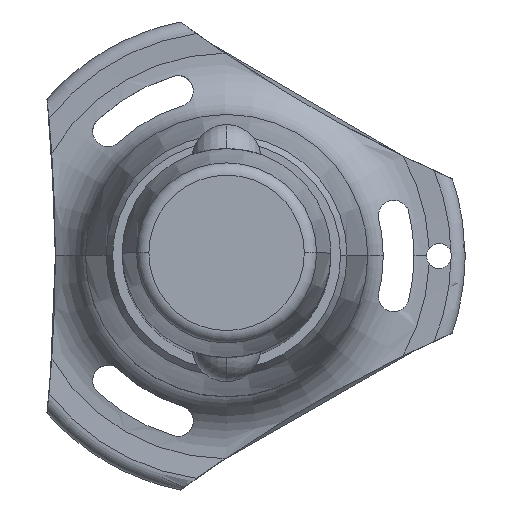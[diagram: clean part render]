
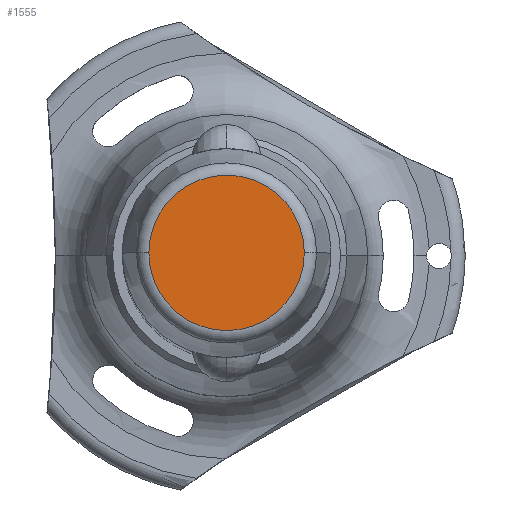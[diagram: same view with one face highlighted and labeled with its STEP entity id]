
A CAD part, top view. The second image highlights one B-rep face of the part: STEP entity #1555.
In plain terms, the highlighted planar face has unit normal (0, 0, 1).
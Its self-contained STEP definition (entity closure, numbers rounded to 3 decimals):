
#55 = EDGE_CURVE ( 'NONE', #1114, #2218, #1697, .T. ) ;
#116 = PLANE ( 'NONE',  #2482 ) ;
#242 = DIRECTION ( 'NONE',  ( 1., 0., 0. ) ) ;
#288 = ORIENTED_EDGE ( 'NONE', *, *, #1165, .T. ) ;
#335 = DIRECTION ( 'NONE',  ( 0., 0., 1. ) ) ;
#602 = AXIS2_PLACEMENT_3D ( 'NONE', #2385, #1449, #2788 ) ;
#650 = CIRCLE ( 'NONE', #602, 9.302 ) ;
#822 = AXIS2_PLACEMENT_3D ( 'NONE', #2658, #2617, #242 ) ;
#845 = EDGE_LOOP ( 'NONE', ( #288, #1652 ) ) ;
#1058 = CARTESIAN_POINT ( 'NONE',  ( -9.302, 0., 22. ) ) ;
#1114 = VERTEX_POINT ( 'NONE', #1058 ) ;
#1165 = EDGE_CURVE ( 'NONE', #2218, #1114, #650, .T. ) ;
#1185 = FACE_OUTER_BOUND ( 'NONE', #845, .T. ) ;
#1219 = CARTESIAN_POINT ( 'NONE',  ( 0., 0., 22. ) ) ;
#1428 = DIRECTION ( 'NONE',  ( 1., 0., 0. ) ) ;
#1449 = DIRECTION ( 'NONE',  ( 0., 0., 1. ) ) ;
#1555 = ADVANCED_FACE ( 'NONE', ( #1185 ), #116, .T. ) ;
#1652 = ORIENTED_EDGE ( 'NONE', *, *, #55, .T. ) ;
#1697 = CIRCLE ( 'NONE', #822, 9.302 ) ;
#2218 = VERTEX_POINT ( 'NONE', #2488 ) ;
#2385 = CARTESIAN_POINT ( 'NONE',  ( 0., 0., 22. ) ) ;
#2482 = AXIS2_PLACEMENT_3D ( 'NONE', #1219, #335, #1428 ) ;
#2488 = CARTESIAN_POINT ( 'NONE',  ( 9.302, 0., 22. ) ) ;
#2617 = DIRECTION ( 'NONE',  ( 0., 0., 1. ) ) ;
#2658 = CARTESIAN_POINT ( 'NONE',  ( 0., 0., 22. ) ) ;
#2788 = DIRECTION ( 'NONE',  ( 1., 0., 0. ) ) ;
